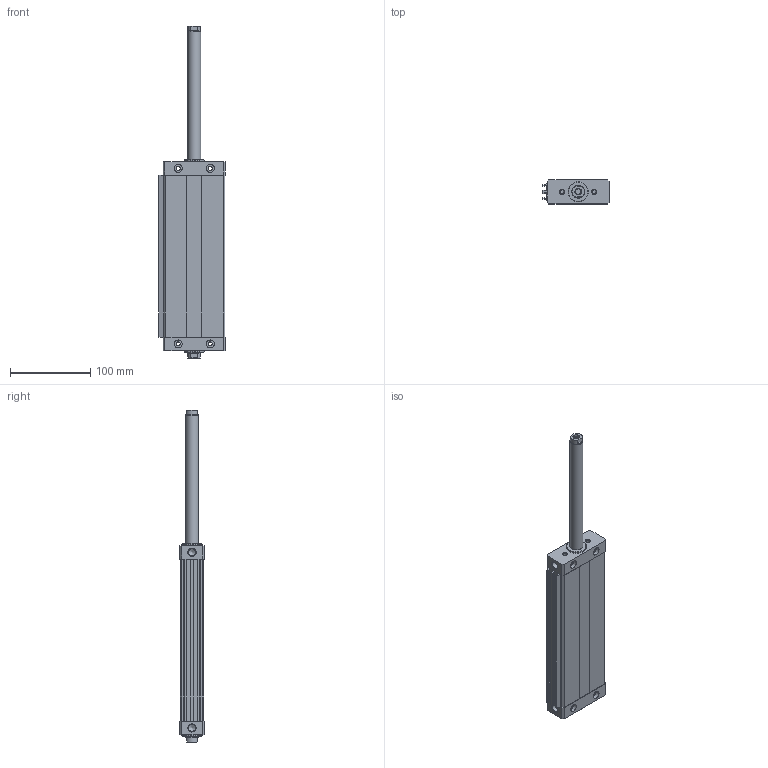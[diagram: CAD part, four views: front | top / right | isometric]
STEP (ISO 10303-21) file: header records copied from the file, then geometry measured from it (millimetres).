
FILE_DESCRIPTION((''),'2;1');
FILE_NAME('I:\Area Tecnica\Disegni\VARIE-3D\Componenti\1370 - CPO\1370_##_0000_03\1370_40_0160_03-01.iam.step','2010-12-16T10:57:00',(''),(''),'Autodesk Inventor 2011','Autodesk Inventor 2011','');
FILE_SCHEMA(('AUTOMOTIVE_DESIGN { 1 0 10303 214 1 1 1 1 }'));
Length unit declared in the file: millimetre
Products named in the file (5): 1370_40_0160_03-01; 1370_05_40_0000; 1370_06_40_0160; 1370_08_40_0000; 1370_3_40_0160
Assembly tree (4 placements, depth 2):
  1370_40_0160_03-01
    1370_05_40_0000
    1370_06_40_0160
    1370_08_40_0000
    1370_3_40_0160
Bounding box: 82.5 x 30 x 414 mm (x, y, z)
Volume: 383315.3 mm3; surface area: 133794.3 mm2
Topology: 4 solids, 4 shells, 166 faces, 398 edges, 254 vertices
Faces by surface type: plane 94, cylinder 48, cone 24
Full cylindrical faces by diameter (mm): 5 x10, 6.8 x2, 8.4 x2, 8.7 x2, 10 x8, 15.5 x2, 16 x4, 25 x2
Entity records: 4848 total; most frequent: DIRECTION 802, CARTESIAN_POINT 799, ORIENTED_EDGE 672, EDGE_CURVE 336, AXIS2_PLACEMENT_3D 299, EDGE_LOOP 254, VERTEX_POINT 244, VECTOR 204
